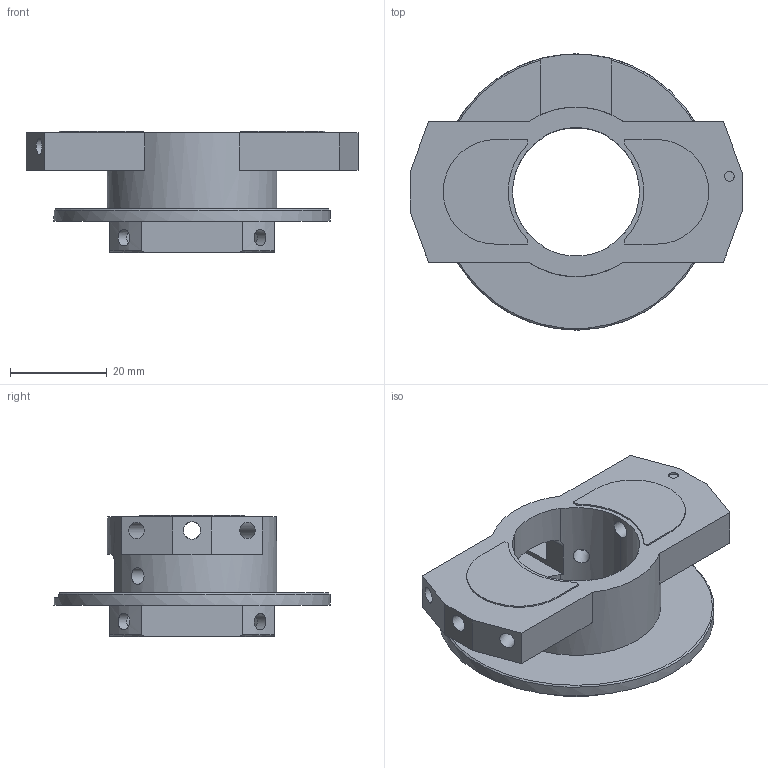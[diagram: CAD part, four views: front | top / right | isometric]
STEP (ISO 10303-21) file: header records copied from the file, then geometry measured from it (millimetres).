
FILE_DESCRIPTION(('Open CASCADE Model'),'2;1');
FILE_NAME('Open CASCADE Shape Model','2026-11-25T01:48:17',('Author'),( 'Open CASCADE'),'Open CASCADE STEP processor 8.0','Open CASCADE 8.0' ,'Unknown');
FILE_SCHEMA(('AUTOMOTIVE_DESIGN { 1 0 10303 214 1 1 1 1 }'));
Length unit declared in the file: millimetre
Products named in the file (1): Open CASCADE STEP translator 8.0 2
Bounding box: 68.52 x 57 x 25 mm (x, y, z)
Volume: 21139.1 mm3; surface area: 12915.3 mm2
Topology: 1 solids, 1 shells, 103 faces, 282 edges, 188 vertices
Faces by surface type: plane 63, cylinder 35, cone 5
Full cylindrical faces by diameter (mm): 2 x1, 2.5 x2, 3.4 x12, 3.6 x2, 35 x1, 57 x1
Entity records: 9236 total; most frequent: CARTESIAN_POINT 3852, DIRECTION 892, ORIENTED_EDGE 564, PCURVE 564, DEFINITIONAL_REPRESENTATION 564, LINE 480, VECTOR 480, EDGE_CURVE 282
